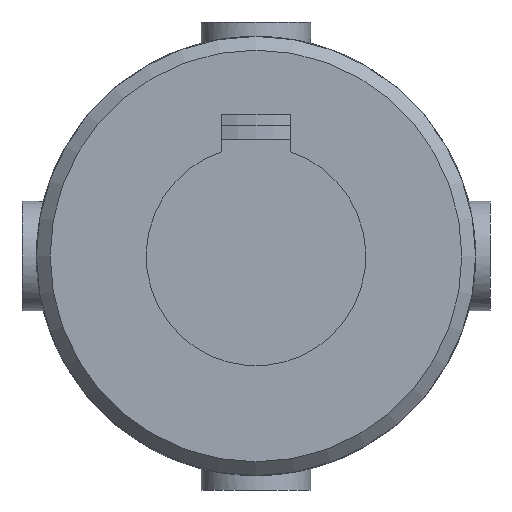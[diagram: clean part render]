
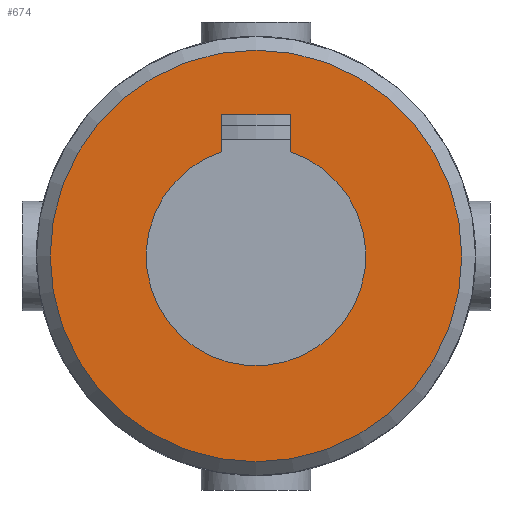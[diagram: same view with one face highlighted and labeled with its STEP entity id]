
A CAD part, left-side view. The second image highlights one B-rep face of the part: STEP entity #674.
In plain terms, the highlighted planar face has unit normal (-1, 0, 0) as drawn and (0, -1, 0) by its records, which use the part's own axes.
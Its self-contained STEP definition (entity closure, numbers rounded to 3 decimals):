
#81=LINE('',#1028,#114);
#86=LINE('',#1045,#119);
#87=LINE('',#1054,#120);
#114=VECTOR('',#844,2.701);
#119=VECTOR('',#855,2.701);
#120=VECTOR('',#858,5.);
#146=PLANE('',#735);
#169=FACE_BOUND('',#249,.T.);
#194=FACE_OUTER_BOUND('',#248,.T.);
#248=EDGE_LOOP('',(#541));
#249=EDGE_LOOP('',(#542,#543,#544,#545));
#282=CIRCLE('',#723,8.);
#287=CIRCLE('',#733,15.);
#320=VERTEX_POINT('',#1017);
#321=VERTEX_POINT('',#1019);
#323=VERTEX_POINT('',#1027);
#329=VERTEX_POINT('',#1043);
#331=VERTEX_POINT('',#1060);
#391=EDGE_CURVE('',#321,#320,#282,.T.);
#394=EDGE_CURVE('',#323,#321,#81,.T.);
#402=EDGE_CURVE('',#320,#329,#86,.T.);
#404=EDGE_CURVE('',#329,#323,#87,.T.);
#407=EDGE_CURVE('',#331,#331,#287,.T.);
#541=ORIENTED_EDGE('',*,*,#407,.F.);
#542=ORIENTED_EDGE('',*,*,#402,.T.);
#543=ORIENTED_EDGE('',*,*,#404,.T.);
#544=ORIENTED_EDGE('',*,*,#394,.T.);
#545=ORIENTED_EDGE('',*,*,#391,.T.);
#674=ADVANCED_FACE('',(#194,#169),#146,.F.);
#723=AXIS2_PLACEMENT_3D('',#1020,#839,#840);
#733=AXIS2_PLACEMENT_3D('',#1061,#867,#868);
#735=AXIS2_PLACEMENT_3D('',#1237,#875,#876);
#839=DIRECTION('center_axis',(0.,1.,0.));
#840=DIRECTION('ref_axis',(-0.313,0.,0.95));
#844=DIRECTION('',(0.,0.,1.));
#855=DIRECTION('',(0.,0.,-1.));
#858=DIRECTION('',(-1.,0.,0.));
#867=DIRECTION('center_axis',(0.,1.,0.));
#868=DIRECTION('ref_axis',(1.,0.,0.));
#875=DIRECTION('center_axis',(0.,1.,0.));
#876=DIRECTION('ref_axis',(0.,0.,1.));
#1017=CARTESIAN_POINT('',(2.5,-42.,-7.599));
#1019=CARTESIAN_POINT('',(-2.5,-42.,-7.599));
#1020=CARTESIAN_POINT('Origin',(0.,-42.,0.));
#1027=CARTESIAN_POINT('',(-2.5,-42.,-10.3));
#1028=CARTESIAN_POINT('',(-2.5,-42.,-5.15));
#1043=CARTESIAN_POINT('',(2.5,-42.,-10.3));
#1045=CARTESIAN_POINT('',(2.5,-42.,-3.8));
#1054=CARTESIAN_POINT('',(1.25,-42.,-10.3));
#1060=CARTESIAN_POINT('',(-15.,-42.,0.));
#1061=CARTESIAN_POINT('Origin',(0.,-42.,0.));
#1237=CARTESIAN_POINT('Origin',(0.,-42.,0.));
